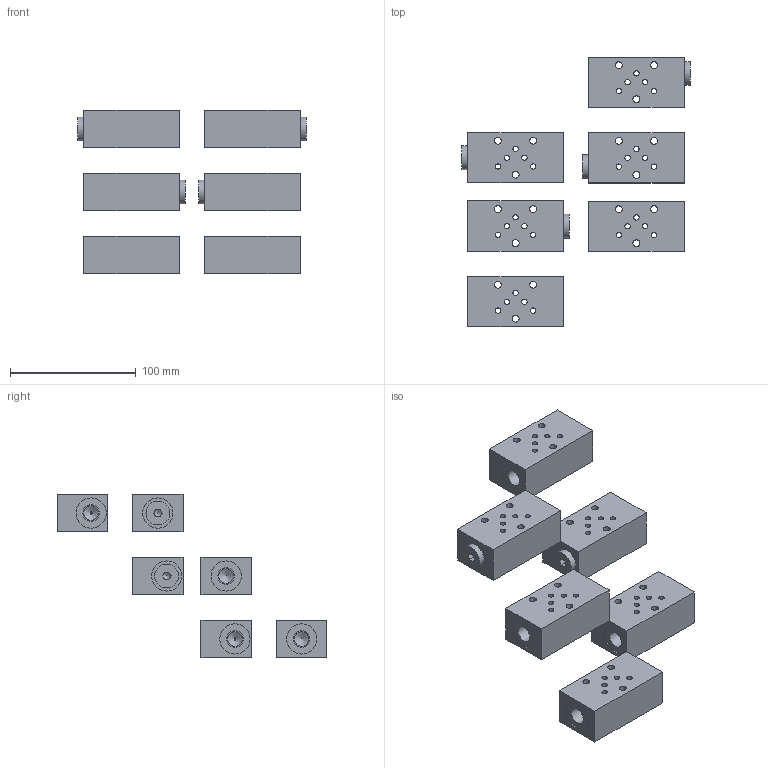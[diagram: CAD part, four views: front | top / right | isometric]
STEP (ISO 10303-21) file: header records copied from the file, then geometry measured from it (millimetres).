
FILE_DESCRIPTION(('Bauteilbeschreibung','HiCAD-Model','HiCAD-STEP-TRANSLATION','Bauteilbeschreibung'),'2;1');
FILE_NAME('C:/_EIGENE_DATEN/DXF_STEP/BSGK_4_3508.STP','2008-08-25T11:26:18+00:00',('Konstrukteur'),('Konstrukteur Firma GmbH'),' HiCAD neXt 2007, Step 3.1.1212.3C ','HiCAD neXt 2007','confidential');
FILE_SCHEMA(('AUTOMOTIVE_DESIGN { 1 2 10303 214 0 1 1 1 }'));
Length unit declared in the file: millimetre
Products named in the file (31): BSGK_4_3508; BSGKAB4; A07CABDE; AB73A8D9; BSGKA4; A791C04F; AB73A8D90; A98D00AE; A98D00AE0; ED; BSGKB4; A14A955E; AB73A8D91; A98D00AE1; A98D00AE2; ED0; BSGKPT4; ACFE163D; E660A2C7; BSGKP4; DE11B99B; E660A2C70; A98D00AE3; A98D00AE4; ED1; BSGKT4; A5038725; E660A2C71; A98D00AE5; A98D00AE6; ED2
Assembly tree (30 placements, depth 5):
  BSGK_4_3508
    BSGKAB4
      A07CABDE
        AB73A8D9
    BSGKA4
      A791C04F
        AB73A8D90
        A98D00AE
        A98D00AE0
          ED
    BSGKB4
      A14A955E
        AB73A8D91
        A98D00AE1
        A98D00AE2
          ED0
    BSGKPT4
      ACFE163D
        E660A2C7
    BSGKP4
      DE11B99B
        E660A2C70
        A98D00AE3
        A98D00AE4
          ED1
    BSGKT4
      A5038725
        E660A2C71
        A98D00AE5
        A98D00AE6
          ED2
Bounding box: 181.4 x 214.29 x 130 mm (x, y, z)
Volume: 498202.4 mm3; surface area: 115281.9 mm2
Topology: 14 solids, 14 shells, 324 faces, 781 edges, 547 vertices
Faces by surface type: plane 162, cylinder 138, cone 24
Full cylindrical faces by diameter (mm): 4.2 x30, 5.5 x18, 8.6 x30, 11.1 x8, 11.445 x4, 11.6 x12, 13.157 x12, 16.65 x8, 18.9 x4, 24 x12
Entity records: 14220 total; most frequent: CARTESIAN_POINT 1935, DIRECTION 1544, ORIENTED_EDGE 950, COLOUR_RGB 813, PRESENTATION_STYLE_ASSIGNMENT 813, OVER_RIDING_STYLED_ITEM 799, AXIS2_PLACEMENT_3D 688, EDGE_LOOP 658
